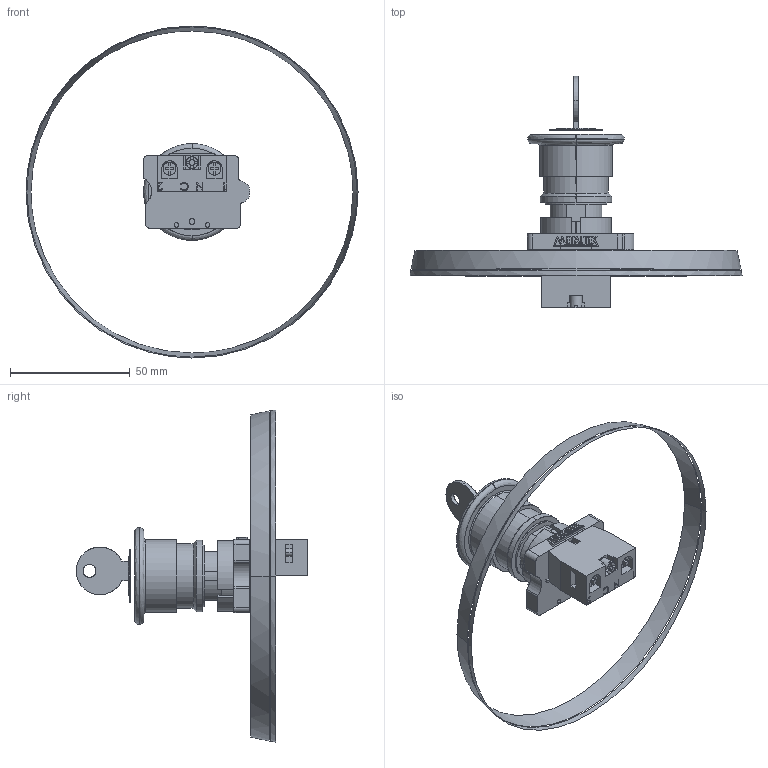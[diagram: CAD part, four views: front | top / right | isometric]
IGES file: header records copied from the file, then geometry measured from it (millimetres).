
Start section: SolidWorks IGES file using analytic representation for surfaces
Global section: file name: D:\X - Arquivos\PROEX\Empresas\P11 - METALTEX\01 - Produtos\IGES\Primeira remessa\P20ACR-R-1B.IGS; native system: SolidWorks 2012; preprocessor: SolidWorks 2012; author: Usuario; date: 180117.114345; units: millimetre
Bounding box: 138.49 x 96.6 x 138.49 mm (x, y, z)
Surface area: 18040.7 mm2 (no closed solid volume)
Topology: 0 solids, 0 shells, 378 faces, 4058 edges, 4058 vertices
Faces by surface type: bspline 289, revolution 89
